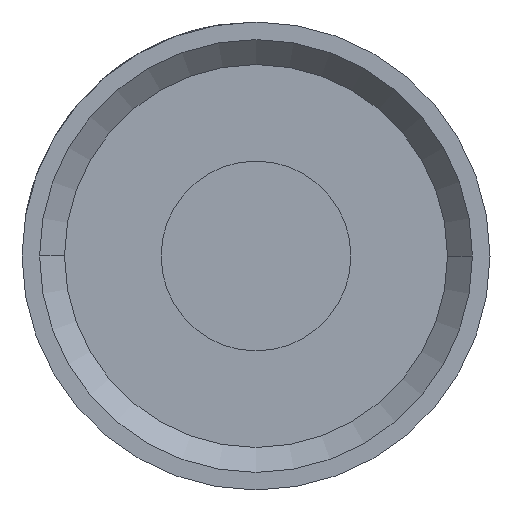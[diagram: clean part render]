
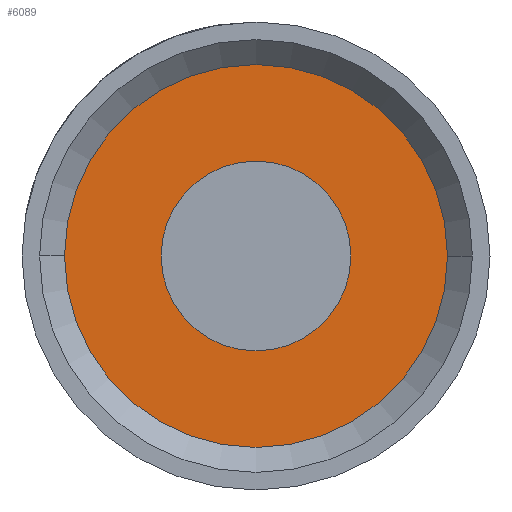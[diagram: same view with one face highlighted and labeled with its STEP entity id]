
A CAD part, left-side view. The second image highlights one B-rep face of the part: STEP entity #6089.
In plain terms, the highlighted planar face has unit normal (-1, 0, 0).
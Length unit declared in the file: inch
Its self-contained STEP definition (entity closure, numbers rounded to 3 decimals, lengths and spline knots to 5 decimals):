
#32 = CIRCLE ( 'NONE', #9135, 0.115 ) ;
#438 = ORIENTED_EDGE ( 'NONE', *, *, #23559, .T. ) ;
#1323 = EDGE_CURVE ( 'NONE', #14567, #21105, #13995, .T. ) ;
#1466 = CARTESIAN_POINT ( 'NONE',  ( 0., -0.115, 0. ) ) ;
#2126 = EDGE_LOOP ( 'NONE', ( #12358, #438 ) ) ;
#2364 = DIRECTION ( 'NONE',  ( 0., 1., 0. ) ) ;
#3550 = DIRECTION ( 'NONE',  ( 0., 1., 0. ) ) ;
#3639 = CIRCLE ( 'NONE', #15396, 0.057 ) ;
#3791 = CARTESIAN_POINT ( 'NONE',  ( 0., 0., 0. ) ) ;
#4603 = AXIS2_PLACEMENT_3D ( 'NONE', #7476, #13294, #11430 ) ;
#6059 = EDGE_CURVE ( 'NONE', #21105, #14567, #32, .T. ) ;
#6089 = ADVANCED_FACE ( 'NONE', ( #12770, #24957 ), #10498, .T. ) ;
#6622 = CARTESIAN_POINT ( 'NONE',  ( 0., 0.057, 0. ) ) ;
#6818 = CARTESIAN_POINT ( 'NONE',  ( 0., 0., 0. ) ) ;
#7145 = ORIENTED_EDGE ( 'NONE', *, *, #1323, .F. ) ;
#7470 = DIRECTION ( 'NONE',  ( 1., 0., 0. ) ) ;
#7476 = CARTESIAN_POINT ( 'NONE',  ( 0., 0.057, 0. ) ) ;
#8555 = CARTESIAN_POINT ( 'NONE',  ( 0., -0.057, 0. ) ) ;
#8824 = VERTEX_POINT ( 'NONE', #6622 ) ;
#9135 = AXIS2_PLACEMENT_3D ( 'NONE', #20143, #10112, #18179 ) ;
#9805 = DIRECTION ( 'NONE',  ( 1., 0., 0. ) ) ;
#10112 = DIRECTION ( 'NONE',  ( 1., 0., 0. ) ) ;
#10498 = PLANE ( 'NONE',  #4603 ) ;
#11430 = DIRECTION ( 'NONE',  ( 0., -1., 0. ) ) ;
#12358 = ORIENTED_EDGE ( 'NONE', *, *, #24491, .T. ) ;
#12705 = CARTESIAN_POINT ( 'NONE',  ( 0., 0.115, 0. ) ) ;
#12770 = FACE_BOUND ( 'NONE', #2126, .T. ) ;
#13294 = DIRECTION ( 'NONE',  ( -1., 0., 0. ) ) ;
#13995 = CIRCLE ( 'NONE', #24892, 0.115 ) ;
#14567 = VERTEX_POINT ( 'NONE', #12705 ) ;
#15396 = AXIS2_PLACEMENT_3D ( 'NONE', #3791, #9805, #17886 ) ;
#16188 = CIRCLE ( 'NONE', #20802, 0.057 ) ;
#16484 = VERTEX_POINT ( 'NONE', #8555 ) ;
#16957 = DIRECTION ( 'NONE',  ( 1., 0., 0. ) ) ;
#17044 = EDGE_LOOP ( 'NONE', ( #7145, #17809 ) ) ;
#17809 = ORIENTED_EDGE ( 'NONE', *, *, #6059, .F. ) ;
#17886 = DIRECTION ( 'NONE',  ( 0., 1., 0. ) ) ;
#18179 = DIRECTION ( 'NONE',  ( 0., 1., 0. ) ) ;
#20143 = CARTESIAN_POINT ( 'NONE',  ( 0., 0., 0. ) ) ;
#20802 = AXIS2_PLACEMENT_3D ( 'NONE', #21555, #7470, #3550 ) ;
#21105 = VERTEX_POINT ( 'NONE', #1466 ) ;
#21555 = CARTESIAN_POINT ( 'NONE',  ( 0., 0., 0. ) ) ;
#23559 = EDGE_CURVE ( 'NONE', #16484, #8824, #16188, .T. ) ;
#24491 = EDGE_CURVE ( 'NONE', #8824, #16484, #3639, .T. ) ;
#24892 = AXIS2_PLACEMENT_3D ( 'NONE', #6818, #16957, #2364 ) ;
#24957 = FACE_OUTER_BOUND ( 'NONE', #17044, .T. ) ;
